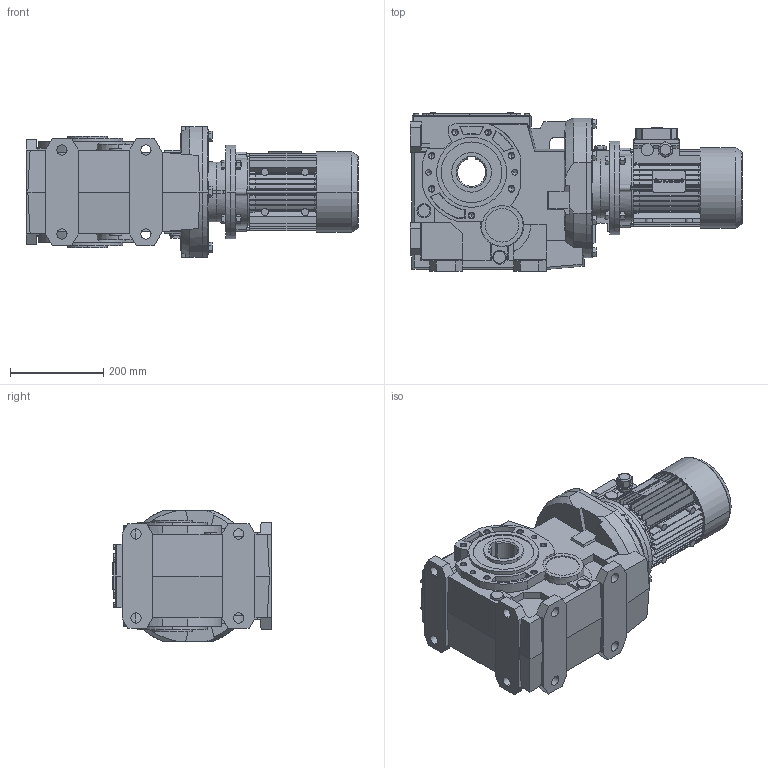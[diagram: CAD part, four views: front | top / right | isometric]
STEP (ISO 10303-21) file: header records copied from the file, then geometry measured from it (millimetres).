
FILE_DESCRIPTION( ( '' ), '1' );
FILE_NAME( '//expscmdclustefs.cadenas.external/client_exchange/iodir/jobs/output/wkb50658864_no0/STEP/B123UC80_0490_B560000000T090L1_2_03.stp', '2012-11-01T00:22:17', ( '' ), ( '' ), ' ', ' ', ' ' );
FILE_SCHEMA( ( 'CONFIG_CONTROL_DESIGN' ) );
Length unit declared in the file: millimetre
Products named in the file (11): 1; 2; 3; 4; 5; 6; 7; 8; 9; 10; 11
Bounding box: 711.5 x 340 x 280 mm (x, y, z)
Volume: 29367908.1 mm3; surface area: 1646969.7 mm2
Topology: 11 solids, 11 shells, 2625 faces, 7098 edges, 4630 vertices
Faces by surface type: plane 1391, cylinder 991, cone 228, torus 9, sphere 6
Entity records: 83496 total; most frequent: CARTESIAN_POINT 15482, DIRECTION 14556, ORIENTED_EDGE 14120, EDGE_CURVE 7060, AXIS2_PLACEMENT_3D 5144, VERTEX_POINT 4630, LINE 4268, VECTOR 4268
